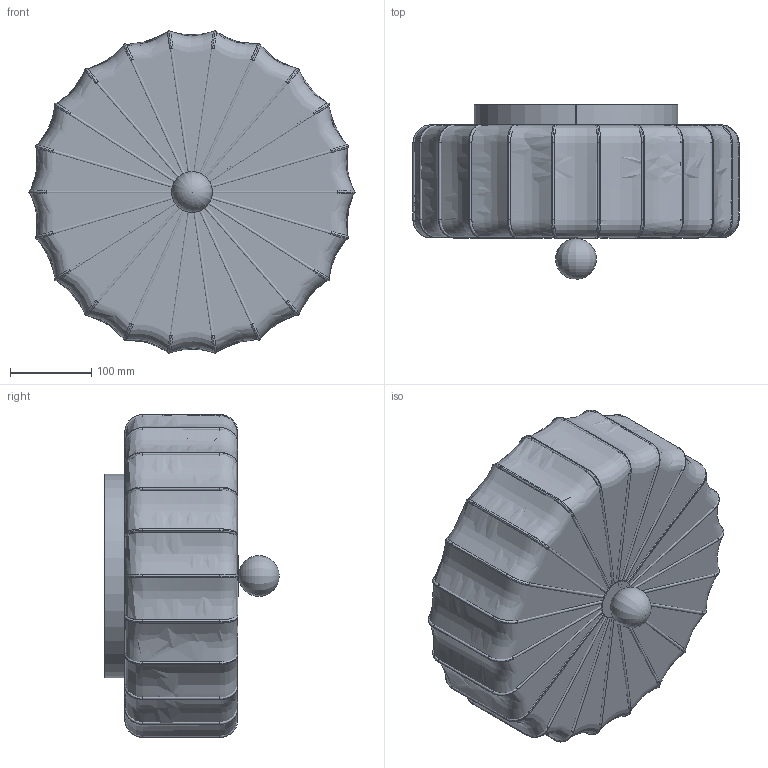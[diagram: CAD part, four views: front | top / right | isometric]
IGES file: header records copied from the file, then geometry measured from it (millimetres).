
Start section: SolidWorks IGES file using analytic representation for surfaces
Global section: file name: F:\燠隴矨\3D\2026-6\Solenne Blossom Ceiling Light-D40cm.IGS,15; native system: HSolidWorks 2022; preprocessor: SolidWorks 2022; author: MyPC; date: 260621.153931; units: millimetre
Bounding box: 400.76 x 214.38 x 396.72 mm (x, y, z)
Surface area: 985409.5 mm2 (no closed solid volume)
Topology: 0 solids, 0 shells, 285 faces, 2910 edges, 2908 vertices
Faces by surface type: bspline 145, revolution 140
